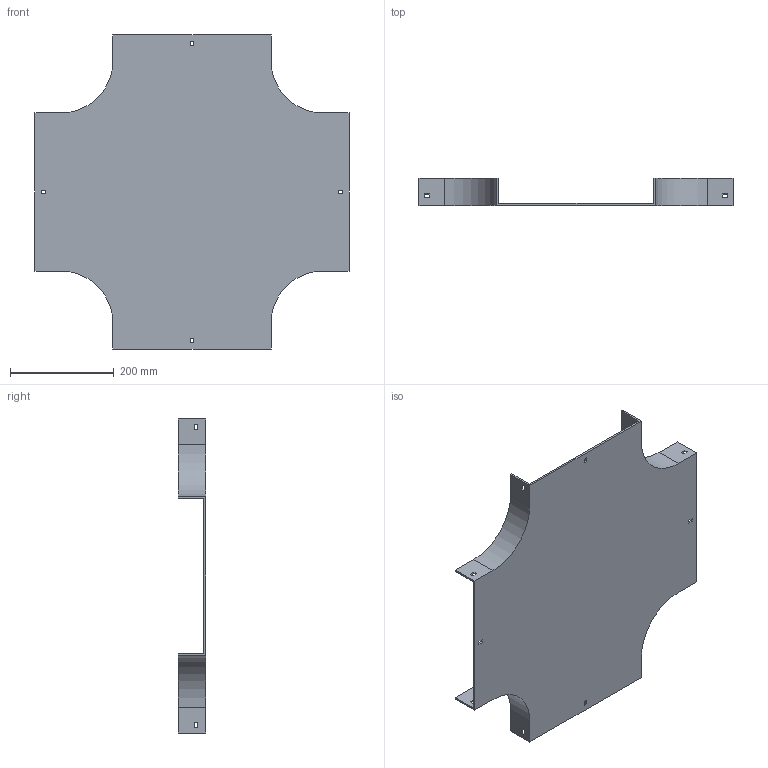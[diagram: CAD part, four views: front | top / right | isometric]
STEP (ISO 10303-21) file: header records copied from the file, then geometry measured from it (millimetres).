
FILE_DESCRIPTION (( 'STEP AP214' ), '1' );
FILE_NAME ('17B1B300.step', '2025-02-21T09:57:15', ( '' ), ( '' ), 'SwSTEP 2.0', 'SolidWorks 2023', '' );
FILE_SCHEMA (( 'AUTOMOTIVE_DESIGN' ));
Length unit declared in the file: millimetre
Products named in the file (1): 17B1B300
Bounding box: 604 x 52 x 604 mm (x, y, z)
Volume: 1165544.8 mm3; surface area: 676624.7 mm2
Topology: 1 solids, 1 shells, 82 faces, 240 edges, 160 vertices
Faces by surface type: plane 74, cylinder 8
Entity records: 2751 total; most frequent: CARTESIAN_POINT 483, ORIENTED_EDGE 480, DIRECTION 422, EDGE_CURVE 240, VECTOR 224, LINE 224, VERTEX_POINT 160, EDGE_LOOP 106
